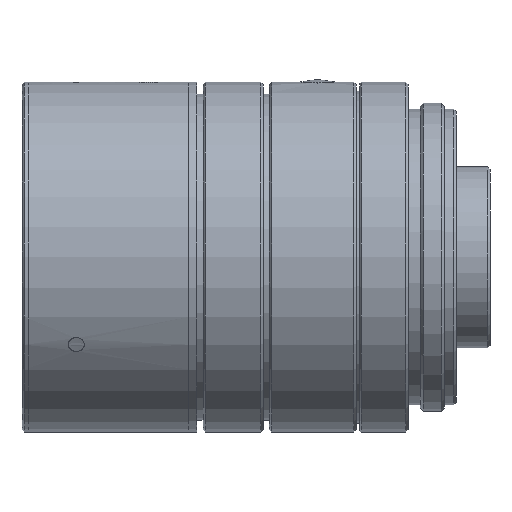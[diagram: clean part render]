
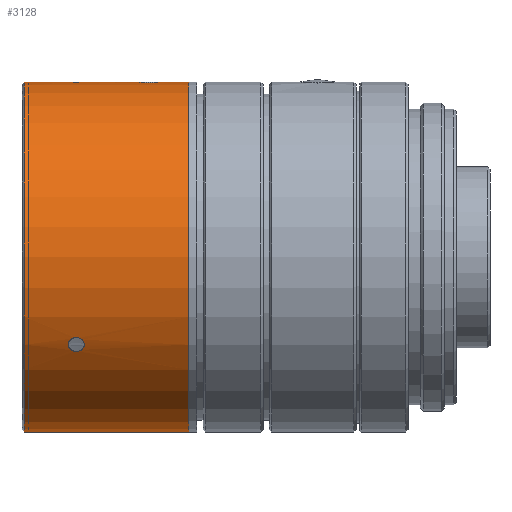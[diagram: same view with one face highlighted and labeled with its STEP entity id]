
A CAD part, front view. The second image highlights one B-rep face of the part: STEP entity #3128.
In plain terms, the highlighted cylindrical face has radius 14.5 mm (diameter 29 mm), a full revolution.
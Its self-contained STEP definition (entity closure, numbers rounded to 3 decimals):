
#71=B_SPLINE_CURVE_WITH_KNOTS('',3,(#4675,#4676,#4677,#4678,#4679,#4680,
#4681,#4682,#4683,#4684,#4685),.UNSPECIFIED.,.T.,.F.,(1,1,1,1,1,1,1,1,1,
1,1,1,1,1,1),(-0.002,-0.001,-0.001,
0.,0.001,0.001,0.002,
0.002,0.003,0.003,0.004,
0.004,0.005,0.005,0.006),
 .UNSPECIFIED.);
#73=B_SPLINE_CURVE_WITH_KNOTS('',3,(#4700,#4701,#4702,#4703,#4704,#4705,
#4706,#4707,#4708,#4709,#4710),.UNSPECIFIED.,.T.,.F.,(1,1,1,1,1,1,1,1,1,
1,1,1,1,1,1),(-0.002,-0.001,-0.001,
0.,0.001,0.001,0.002,
0.002,0.003,0.003,0.004,
0.004,0.005,0.005,0.006),
 .UNSPECIFIED.);
#75=B_SPLINE_CURVE_WITH_KNOTS('',3,(#4725,#4726,#4727,#4728,#4729,#4730,
#4731,#4732,#4733,#4734,#4735),.UNSPECIFIED.,.T.,.F.,(1,1,1,1,1,1,1,1,1,
1,1,1,1,1,1),(-0.002,-0.001,-0.001,
0.,0.001,0.001,0.002,
0.002,0.003,0.003,0.004,
0.004,0.005,0.005,0.006),
 .UNSPECIFIED.);
#76=B_SPLINE_CURVE_WITH_KNOTS('',3,(#4738,#4739,#4740,#4741,#4742,#4743,
#4744,#4745,#4746,#4747,#4748),.UNSPECIFIED.,.T.,.F.,(1,1,1,1,1,1,1,1,1,
1,1,1,1,1,1),(-0.002,-0.002,-0.001,
0.,0.001,0.002,0.002,0.003,
0.004,0.005,0.006,0.006,
0.007,0.008,0.009),
 .UNSPECIFIED.);
#128=CYLINDRICAL_SURFACE('',#3443,14.5);
#487=ORIENTED_EDGE('',*,*,#711,.T.);
#488=ORIENTED_EDGE('',*,*,#710,.T.);
#489=ORIENTED_EDGE('',*,*,#708,.T.);
#490=ORIENTED_EDGE('',*,*,#706,.T.);
#491=ORIENTED_EDGE('',*,*,#703,.F.);
#492=ORIENTED_EDGE('',*,*,#704,.T.);
#703=EDGE_CURVE('',#881,#881,#1043,.T.);
#704=EDGE_CURVE('',#882,#882,#1044,.T.);
#706=EDGE_CURVE('',#884,#884,#71,.T.);
#708=EDGE_CURVE('',#886,#886,#73,.T.);
#710=EDGE_CURVE('',#888,#888,#75,.T.);
#711=EDGE_CURVE('',#889,#889,#76,.T.);
#881=VERTEX_POINT('',#4658);
#882=VERTEX_POINT('',#4661);
#884=VERTEX_POINT('',#4686);
#886=VERTEX_POINT('',#4711);
#888=VERTEX_POINT('',#4736);
#889=VERTEX_POINT('',#4749);
#1043=CIRCLE('',#3437,14.5);
#1044=CIRCLE('',#3439,14.5);
#1343=EDGE_LOOP('',(#487));
#1344=EDGE_LOOP('',(#488));
#1345=EDGE_LOOP('',(#489));
#1346=EDGE_LOOP('',(#490));
#1347=EDGE_LOOP('',(#491));
#1348=EDGE_LOOP('',(#492));
#1675=FACE_BOUND('',#1343,.T.);
#1676=FACE_BOUND('',#1344,.T.);
#1677=FACE_BOUND('',#1345,.T.);
#1678=FACE_BOUND('',#1346,.T.);
#1679=FACE_BOUND('',#1347,.T.);
#1680=FACE_BOUND('',#1348,.T.);
#3128=ADVANCED_FACE('',(#1675,#1676,#1677,#1678,#1679,#1680),#128,.T.);
#3437=AXIS2_PLACEMENT_3D('',#4657,#4041,#4042);
#3439=AXIS2_PLACEMENT_3D('',#4660,#4045,#4046);
#3443=AXIS2_PLACEMENT_3D('',#4737,#4053,#4054);
#4041=DIRECTION('',(-1.,0.,0.));
#4042=DIRECTION('',(0.,0.,1.));
#4045=DIRECTION('',(-1.,0.,0.));
#4046=DIRECTION('',(0.,0.,1.));
#4053=DIRECTION('',(-1.,0.,0.));
#4054=DIRECTION('',(0.,0.,1.));
#4657=CARTESIAN_POINT('',(-49.3,0.,0.));
#4658=CARTESIAN_POINT('',(-49.3,0.,14.5));
#4660=CARTESIAN_POINT('',(-35.7,0.,0.));
#4661=CARTESIAN_POINT('',(-35.7,0.,14.5));
#4675=CARTESIAN_POINT('',(-44.483,0.518,14.492));
#4676=CARTESIAN_POINT('',(-44.268,0.,14.504));
#4677=CARTESIAN_POINT('',(-44.483,-0.518,14.492));
#4678=CARTESIAN_POINT('',(-44.999,-0.732,14.481));
#4679=CARTESIAN_POINT('',(-45.517,-0.518,14.492));
#4680=CARTESIAN_POINT('',(-45.732,0.,14.504));
#4681=CARTESIAN_POINT('',(-45.518,0.517,14.493));
#4682=CARTESIAN_POINT('',(-45.001,0.732,14.481));
#4683=CARTESIAN_POINT('',(-44.483,0.518,14.492));
#4684=CARTESIAN_POINT('',(-44.268,0.,14.504));
#4685=CARTESIAN_POINT('',(-44.483,-0.518,14.492));
#4686=CARTESIAN_POINT('',(-44.34,0.,14.5));
#4700=CARTESIAN_POINT('',(-44.483,12.292,-7.695));
#4701=CARTESIAN_POINT('',(-44.268,12.561,-7.252));
#4702=CARTESIAN_POINT('',(-44.483,12.81,-6.798));
#4703=CARTESIAN_POINT('',(-44.999,12.907,-6.607));
#4704=CARTESIAN_POINT('',(-45.517,12.81,-6.798));
#4705=CARTESIAN_POINT('',(-45.732,12.561,-7.252));
#4706=CARTESIAN_POINT('',(-45.518,12.292,-7.694));
#4707=CARTESIAN_POINT('',(-45.001,12.175,-7.875));
#4708=CARTESIAN_POINT('',(-44.483,12.292,-7.695));
#4709=CARTESIAN_POINT('',(-44.268,12.561,-7.252));
#4710=CARTESIAN_POINT('',(-44.483,12.81,-6.798));
#4711=CARTESIAN_POINT('',(-44.34,12.557,-7.25));
#4725=CARTESIAN_POINT('',(-44.483,-12.81,-6.797));
#4726=CARTESIAN_POINT('',(-44.268,-12.561,-7.252));
#4727=CARTESIAN_POINT('',(-44.483,-12.292,-7.695));
#4728=CARTESIAN_POINT('',(-44.999,-12.175,-7.874));
#4729=CARTESIAN_POINT('',(-45.517,-12.292,-7.695));
#4730=CARTESIAN_POINT('',(-45.732,-12.561,-7.252));
#4731=CARTESIAN_POINT('',(-45.518,-12.809,-6.799));
#4732=CARTESIAN_POINT('',(-45.001,-12.907,-6.607));
#4733=CARTESIAN_POINT('',(-44.483,-12.81,-6.797));
#4734=CARTESIAN_POINT('',(-44.268,-12.561,-7.252));
#4735=CARTESIAN_POINT('',(-44.483,-12.292,-7.695));
#4736=CARTESIAN_POINT('',(-44.34,-12.557,-7.25));
#4737=CARTESIAN_POINT('',(-60.5,0.,0.));
#4738=CARTESIAN_POINT('',(-38.987,-1.119,14.456));
#4739=CARTESIAN_POINT('',(-39.803,-0.813,14.481));
#4740=CARTESIAN_POINT('',(-40.169,-0.012,14.509));
#4741=CARTESIAN_POINT('',(-39.82,0.797,14.482));
#4742=CARTESIAN_POINT('',(-39.011,1.119,14.456));
#4743=CARTESIAN_POINT('',(-38.198,0.813,14.481));
#4744=CARTESIAN_POINT('',(-37.831,0.014,14.509));
#4745=CARTESIAN_POINT('',(-38.18,-0.797,14.482));
#4746=CARTESIAN_POINT('',(-38.987,-1.119,14.456));
#4747=CARTESIAN_POINT('',(-39.803,-0.813,14.481));
#4748=CARTESIAN_POINT('',(-40.169,-0.012,14.509));
#4749=CARTESIAN_POINT('',(-39.728,-0.731,14.482));
